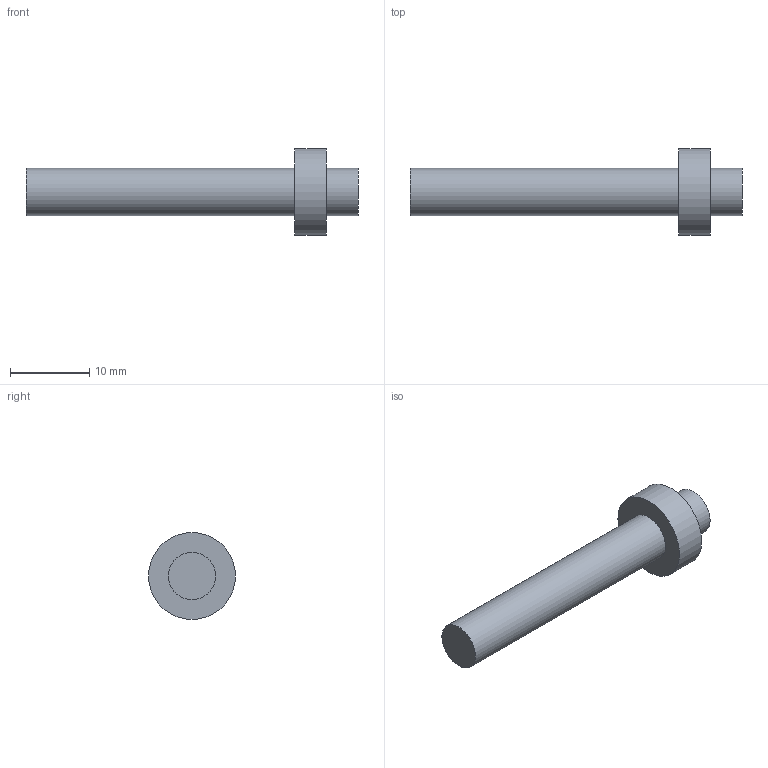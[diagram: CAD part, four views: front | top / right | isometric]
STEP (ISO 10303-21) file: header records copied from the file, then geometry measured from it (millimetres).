
FILE_DESCRIPTION(('Open CASCADE Model'),'2;1');
FILE_NAME('Open CASCADE Shape Model','2026-11-23T20:25:51',('Author'),( 'Open CASCADE'),'Open CASCADE STEP processor 7.9','Open CASCADE 7.9' ,'Unknown');
FILE_SCHEMA(('AUTOMOTIVE_DESIGN { 1 0 10303 214 1 1 1 1 }'));
Length unit declared in the file: millimetre
Products named in the file (1): Open CASCADE STEP translator 7.9 9
Bounding box: 42 x 11 x 11 mm (x, y, z)
Volume: 1454.6 mm3; surface area: 1044.6 mm2
Topology: 1 solids, 1 shells, 7 faces, 9 edges, 6 vertices
Faces by surface type: plane 4, cylinder 3
Full cylindrical faces by diameter (mm): 6 x2, 11 x1
Entity records: 282 total; most frequent: CARTESIAN_POINT 53, DIRECTION 47, ORIENTED_EDGE 18, PCURVE 18, DEFINITIONAL_REPRESENTATION 18, LINE 15, VECTOR 15, AXIS2_PLACEMENT_3D 14
